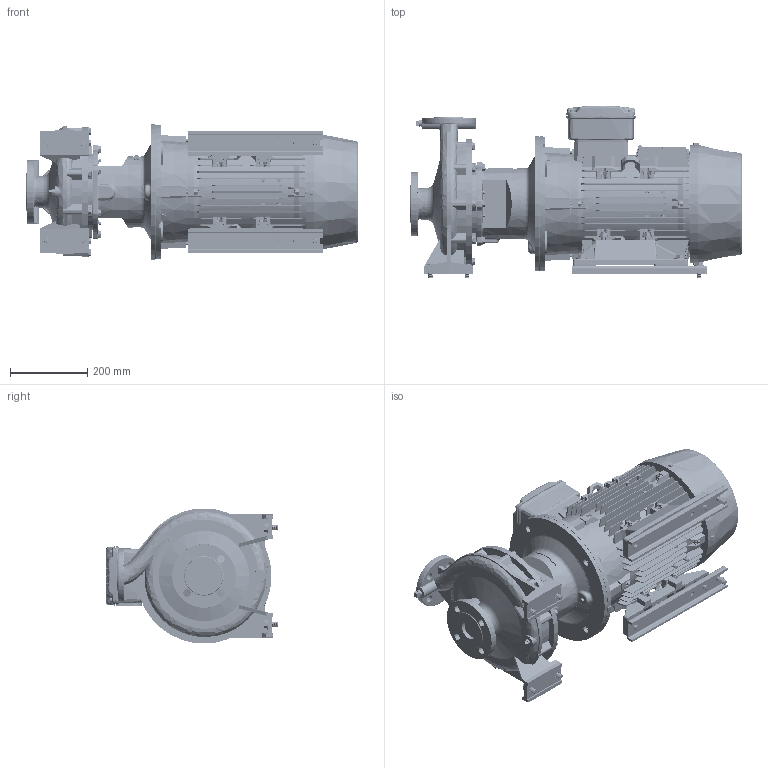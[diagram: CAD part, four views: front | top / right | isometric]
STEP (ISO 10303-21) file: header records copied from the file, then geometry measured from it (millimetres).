
FILE_DESCRIPTION (( 'STEP AP214' ), '1' );
FILE_NAME ('GSD2 32-250_11.0, 15.0 & 18.5_(160ML)_W21.STEP', '2026-07-02T05:11:27', ( '' ), ( '' ), 'SwSTEP 2.0', 'SolidWorks 2024', '' );
FILE_SCHEMA (( 'AUTOMOTIVE_DESIGN' ));
Length unit declared in the file: millimetre
Products named in the file (9): Parametric bolt and washer_SFT-A299B; GSD2  32-250_11.0, 15.0 & 18.5_(160ML)_W21; Parametric bolt and washer_SFT-A301B; 210_254 x 20 - 271472113; 32-250-160M_L; Parametric bolt_SFT-A301B; Parametric Flat Washer_M12; Parametric bolt_SFT-A299B; 160M_L_ALIE3_W21T_B35
Assembly tree (18 placements, depth 3):
  GSD2  32-250_11.0, 15.0 & 18.5_(160ML)_W21
    32-250-160M_L
    210_254 x 20 - 271472113  x2
    Parametric bolt and washer_SFT-A299B  x4
      Parametric bolt_SFT-A299B
      Parametric Flat Washer_M12
    Parametric bolt and washer_SFT-A301B  x6
      Parametric bolt_SFT-A301B
      Parametric Flat Washer_M12
    160M_L_ALIE3_W21T_B35
Bounding box: 860.3 x 447.03 x 350 mm (x, y, z)
Volume: 44630569.1 mm3; surface area: 2929288.7 mm2
Topology: 69 solids, 75 shells, 6460 faces, 16776 edges, 10903 vertices
Faces by surface type: plane 3836, cylinder 1293, cone 624, bspline 443, torus 248, sphere 16
Entity records: 224441 total; most frequent: CARTESIAN_POINT 84262, ORIENTED_EDGE 30708, DIRECTION 26091, EDGE_CURVE 15354, VERTEX_POINT 9992, LINE 9677, VECTOR 9677, AXIS2_PLACEMENT_3D 8207
